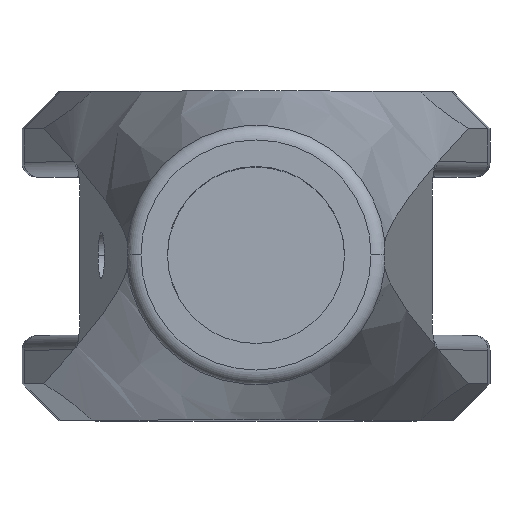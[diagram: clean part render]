
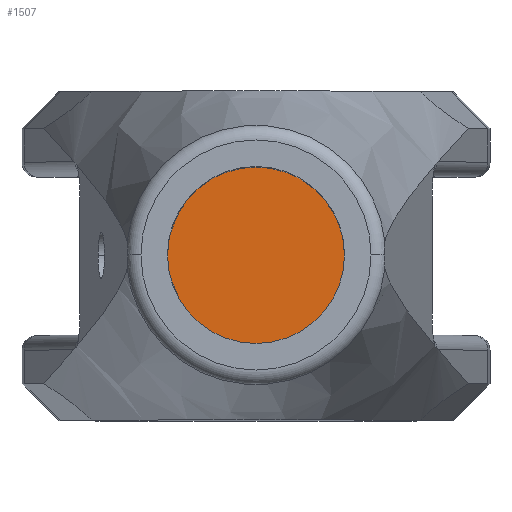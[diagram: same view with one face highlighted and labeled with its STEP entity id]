
A CAD part, top view. The second image highlights one B-rep face of the part: STEP entity #1507.
In plain terms, the highlighted planar face has unit normal (0, 0, 1).
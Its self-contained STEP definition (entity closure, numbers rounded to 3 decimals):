
#115 = CARTESIAN_POINT ( 'NONE',  ( 34.5, 0., -96. ) ) ;
#119 = EDGE_LOOP ( 'NONE', ( #554, #459 ) ) ;
#131 = CIRCLE ( 'NONE', #196, 24. ) ;
#196 = AXIS2_PLACEMENT_3D ( 'NONE', #1954, #952, #2114 ) ;
#260 = DIRECTION ( 'NONE',  ( 0., 0., 1. ) ) ;
#284 = DIRECTION ( 'NONE',  ( 1., 0., 0. ) ) ;
#313 = FACE_OUTER_BOUND ( 'NONE', #119, .T. ) ;
#401 = AXIS2_PLACEMENT_3D ( 'NONE', #1238, #260, #1419 ) ;
#459 = ORIENTED_EDGE ( 'NONE', *, *, #2036, .T. ) ;
#554 = ORIENTED_EDGE ( 'NONE', *, *, #1578, .T. ) ;
#658 = CIRCLE ( 'NONE', #842, 24. ) ;
#842 = AXIS2_PLACEMENT_3D ( 'NONE', #115, #1263, #284 ) ;
#952 = DIRECTION ( 'NONE',  ( 0., 0., 1. ) ) ;
#1219 = CARTESIAN_POINT ( 'NONE',  ( 10.5, 0., -96. ) ) ;
#1238 = CARTESIAN_POINT ( 'NONE',  ( 34.5, 0., -96. ) ) ;
#1245 = VERTEX_POINT ( 'NONE', #1219 ) ;
#1263 = DIRECTION ( 'NONE',  ( 0., 0., 1. ) ) ;
#1419 = DIRECTION ( 'NONE',  ( 1., 0., 0. ) ) ;
#1507 = ADVANCED_FACE ( 'NONE', ( #313 ), #1897, .T. ) ;
#1578 = EDGE_CURVE ( 'NONE', #2057, #1245, #658, .T. ) ;
#1897 = PLANE ( 'NONE',  #401 ) ;
#1946 = CARTESIAN_POINT ( 'NONE',  ( 58.5, 0., -96. ) ) ;
#1954 = CARTESIAN_POINT ( 'NONE',  ( 34.5, 0., -96. ) ) ;
#2036 = EDGE_CURVE ( 'NONE', #1245, #2057, #131, .T. ) ;
#2057 = VERTEX_POINT ( 'NONE', #1946 ) ;
#2114 = DIRECTION ( 'NONE',  ( 1., 0., 0. ) ) ;
